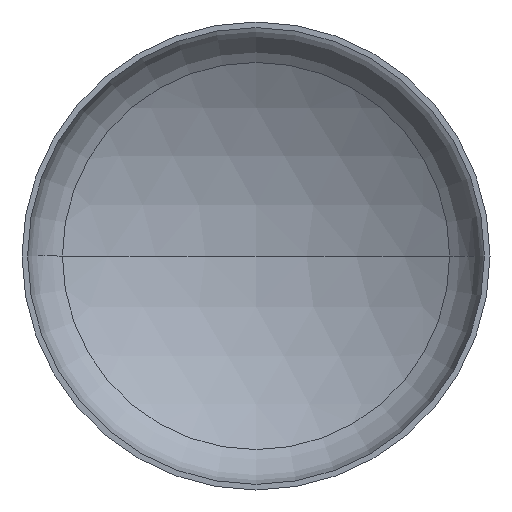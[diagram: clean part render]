
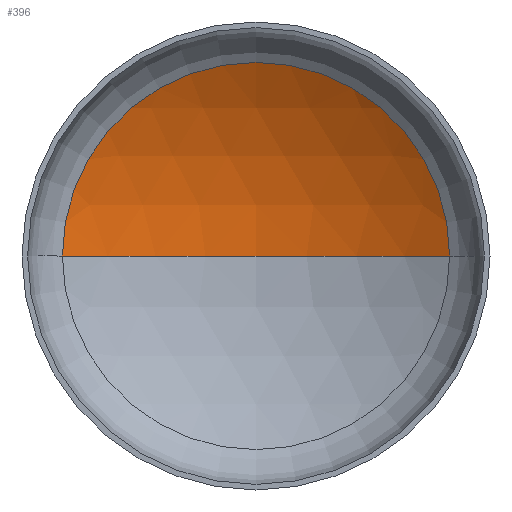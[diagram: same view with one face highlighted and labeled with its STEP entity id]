
A CAD part, front view. The second image highlights one B-rep face of the part: STEP entity #396.
In plain terms, the highlighted spherical face has radius 5200 mm.
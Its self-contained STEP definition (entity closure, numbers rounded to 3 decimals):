
#8 = VERTEX_POINT ( 'NONE', #273 ) ;
#18 = ORIENTED_EDGE ( 'NONE', *, *, #248, .T. ) ;
#25 = VERTEX_POINT ( 'NONE', #236 ) ;
#35 = VERTEX_POINT ( 'NONE', #267 ) ;
#41 = CARTESIAN_POINT ( 'NONE',  ( 0., -3474.776, 0. ) ) ;
#64 = ORIENTED_EDGE ( 'NONE', *, *, #258, .F. ) ;
#74 = EDGE_LOOP ( 'NONE', ( #64, #389, #18 ) ) ;
#120 = CARTESIAN_POINT ( 'NONE',  ( 0., 975.899, 0. ) ) ;
#157 = DIRECTION ( 'NONE',  ( 0., -1., 0. ) ) ;
#159 = AXIS2_PLACEMENT_3D ( 'NONE', #355, #165, #170 ) ;
#163 = CARTESIAN_POINT ( 'NONE',  ( 0., -3474.776, 0. ) ) ;
#164 = AXIS2_PLACEMENT_3D ( 'NONE', #41, #341, #183 ) ;
#165 = DIRECTION ( 'NONE',  ( 0., 0., 1. ) ) ;
#166 = AXIS2_PLACEMENT_3D ( 'NONE', #120, #157, #244 ) ;
#170 = DIRECTION ( 'NONE',  ( 1., 0., 0. ) ) ;
#183 = DIRECTION ( 'NONE',  ( -1., 0., 0. ) ) ;
#229 = DIRECTION ( 'NONE',  ( 0., 0., -1. ) ) ;
#236 = CARTESIAN_POINT ( 'NONE',  ( 0., 1725.224, 0. ) ) ;
#239 = CIRCLE ( 'NONE', #159, 5200. ) ;
#244 = DIRECTION ( 'NONE',  ( 1., 0., 0. ) ) ;
#248 = EDGE_CURVE ( 'NONE', #35, #8, #411, .T. ) ;
#254 = EDGE_CURVE ( 'NONE', #25, #35, #358, .T. ) ;
#258 = EDGE_CURVE ( 'NONE', #25, #8, #239, .T. ) ;
#264 = SPHERICAL_SURFACE ( 'NONE', #313, 5200. ) ;
#267 = CARTESIAN_POINT ( 'NONE',  ( 2689.143, 975.899, 0. ) ) ;
#273 = CARTESIAN_POINT ( 'NONE',  ( -2689.143, 975.899, 0. ) ) ;
#313 = AXIS2_PLACEMENT_3D ( 'NONE', #163, #229, #403 ) ;
#341 = DIRECTION ( 'NONE',  ( 0., 0., -1. ) ) ;
#355 = CARTESIAN_POINT ( 'NONE',  ( 0., -3474.776, 0. ) ) ;
#358 = CIRCLE ( 'NONE', #164, 5200. ) ;
#383 = FACE_OUTER_BOUND ( 'NONE', #74, .T. ) ;
#389 = ORIENTED_EDGE ( 'NONE', *, *, #254, .T. ) ;
#396 = ADVANCED_FACE ( 'NONE', ( #383 ), #264, .F. ) ;
#403 = DIRECTION ( 'NONE',  ( -1., 0., 0. ) ) ;
#411 = CIRCLE ( 'NONE', #166, 2689.143 ) ;
